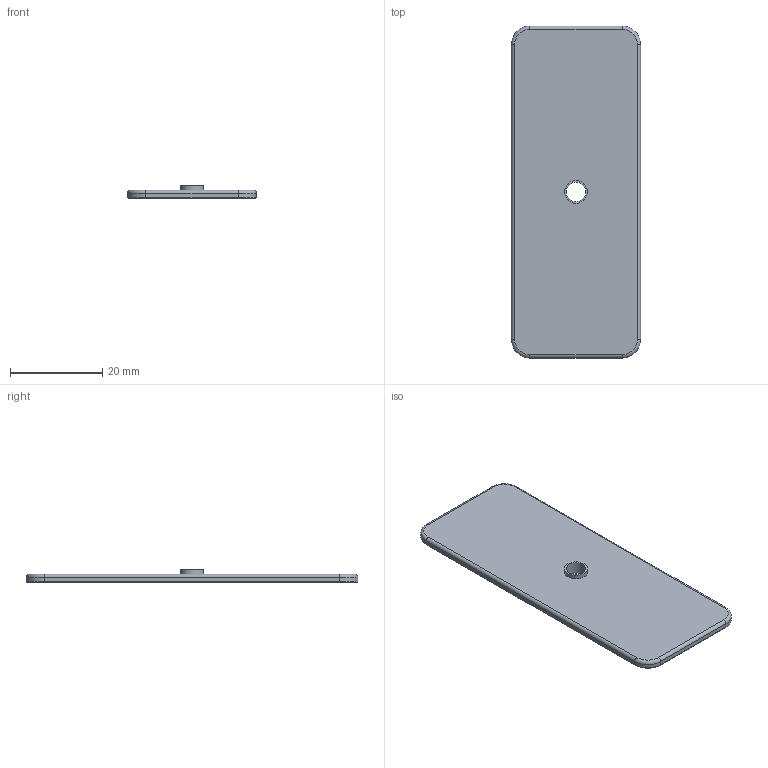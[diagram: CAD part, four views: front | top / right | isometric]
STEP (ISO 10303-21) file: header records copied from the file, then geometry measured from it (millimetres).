
FILE_DESCRIPTION(('Open CASCADE Model'),'2;1');
FILE_NAME('W-RECT-WP72','2026-10-19T21:23:53',('Author'),('Open CASCADE' ),'Open CASCADE STEP processor 8.0','build123d','Unknown');
FILE_SCHEMA(('AUTOMOTIVE_DESIGN { 1 0 10303 214 1 1 1 1 }'));
Length unit declared in the file: millimetre
Products named in the file (2): W-RECT-WP72; brass_WP72__w
Assembly tree (1 placements, depth 2):
  W-RECT-WP72
    brass_WP72__w
Bounding box: 28 x 72 x 2.79 mm (x, y, z)
Volume: 3554 mm3; surface area: 4305.4 mm2
Topology: 1 solids, 1 shells, 33 faces, 68 edges, 40 vertices
Faces by surface type: plane 13, cylinder 12, cone 4, torus 4
Full cylindrical faces by diameter (mm): 2 x2, 4.3 x1, 5 x1
Entity records: 1774 total; most frequent: CARTESIAN_POINT 359, DIRECTION 266, ORIENTED_EDGE 136, PCURVE 136, DEFINITIONAL_REPRESENTATION 136, LINE 124, VECTOR 124, EDGE_CURVE 68
